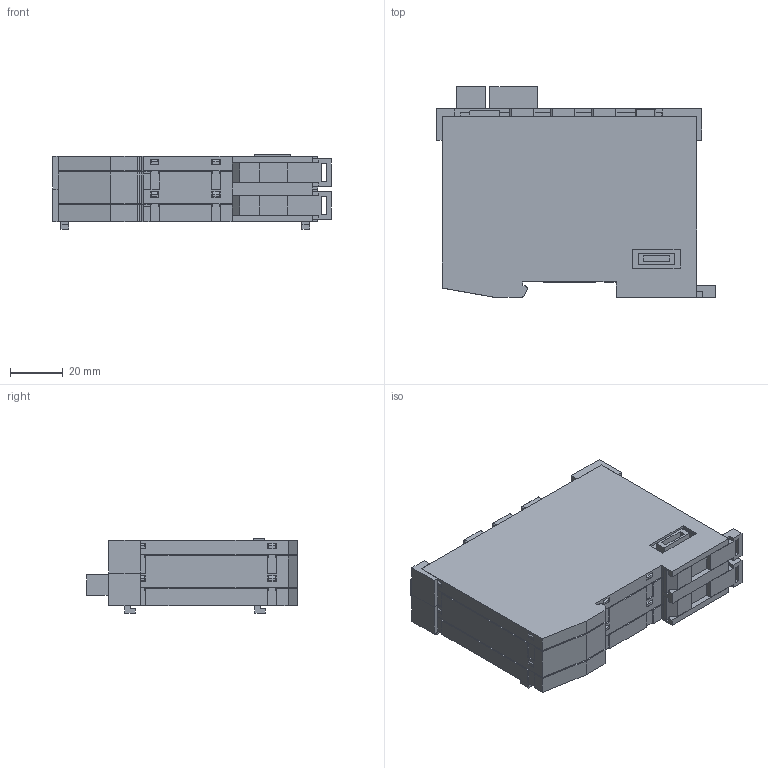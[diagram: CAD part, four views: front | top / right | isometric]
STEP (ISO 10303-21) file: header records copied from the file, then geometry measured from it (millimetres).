
FILE_DESCRIPTION (( 'STEP AP214' ), '1' );
FILE_NAME ('CP111-1 CP112-2 Export2024-02-08.STEP', '2024-02-08T13:39:20', ( 'Windows-Benutzer' ), ( '' ), 'SwSTEP 2.0', 'SolidWorks 2020', '' );
FILE_SCHEMA (( 'AUTOMOTIVE_DESIGN' ));
Length unit declared in the file: millimetre
Products named in the file (1): CP111-1 CP112-2 Export2024-02-08
Bounding box: 105.88 x 80.16 x 28.35 mm (x, y, z)
Volume: 52795.1 mm3; surface area: 82971.8 mm2
Topology: 29 solids, 29 shells, 1126 faces, 3045 edges, 1981 vertices
Faces by surface type: plane 945, cylinder 121, cone 30, torus 26, sphere 4
Entity records: 47491 total; most frequent: CARTESIAN_POINT 6245, ORIENTED_EDGE 6082, DIRECTION 5585, EDGE_CURVE 3041, LINE 2687, VECTOR 2687, VERTEX_POINT 1981, AXIS2_PLACEMENT_3D 1449
